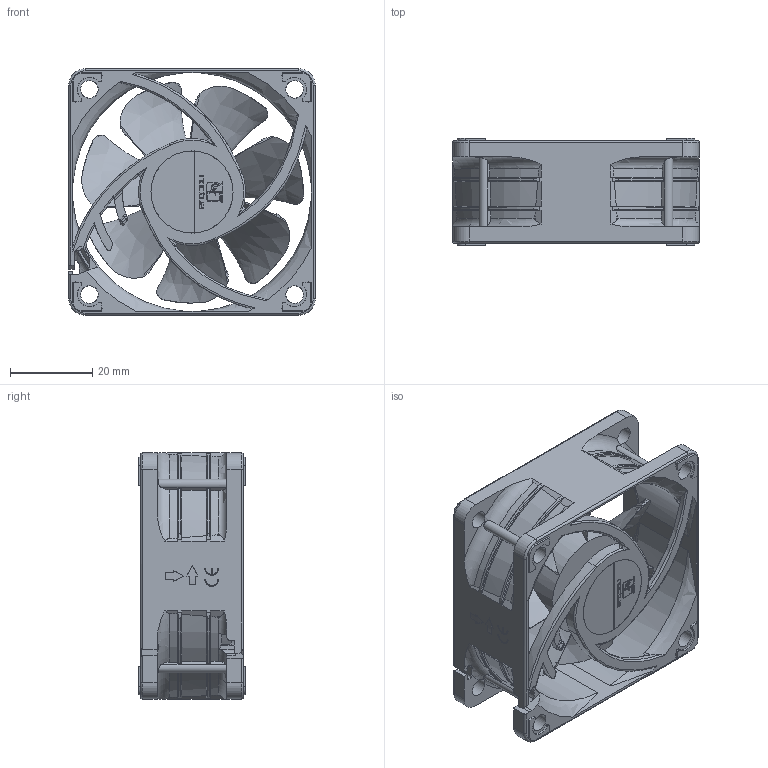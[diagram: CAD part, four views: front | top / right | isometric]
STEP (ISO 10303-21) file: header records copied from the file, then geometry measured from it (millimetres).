
FILE_DESCRIPTION(/* description */ ('140mm Desk Fan'),/* implementation_level */ '2;1');
FILE_NAME(/* name */ 'NF-A6x25_Public-CAD',/* time_stamp */ '2026-04-10T08:29:00+02:00',/* author */ ('Andreas'),/* organization */ ('Rascom'),/* preprocessor_version */ 'ST-DEVELOPER v18.102',/* originating_system */ 'Solid Edge',/* authorisation */ 'Unknown');
FILE_SCHEMA (('AUTOMOTIVE_DESIGN {1 0 10303 214 3 1 1}'));
Length unit declared in the file: millimetre
Products named in the file (5): NF-A6x25_Public-CAD; NF-A6x25_frame-public; NF-A6x25_impeller-public; NA-AVP9; Fan-Label-D20mm-Regular
Assembly tree (11 placements, depth 2):
  NF-A6x25_Public-CAD
    NF-A6x25_frame-public
    NF-A6x25_impeller-public
    NA-AVP9  x8
    Fan-Label-D20mm-Regular
Bounding box: 60 x 26 x 60 mm (x, y, z)
Volume: 24777.7 mm3; surface area: 23315.4 mm2
Topology: 11 solids, 12 shells, 929 faces, 2648 edges, 1753 vertices
Faces by surface type: cylinder 352, plane 325, torus 98, bspline 85, cone 63, sphere 6
Full cylindrical faces by diameter (mm): 2.992 x1, 4.3 x8, 20 x2, 25.8 x1
Entity records: 39350 total; most frequent: CARTESIAN_POINT 17191, ORIENTED_EDGE 4818, DIRECTION 3856, EDGE_CURVE 2409, VERTEX_POINT 1607, AXIS2_PLACEMENT_3D 1467, LINE 922, VECTOR 922
